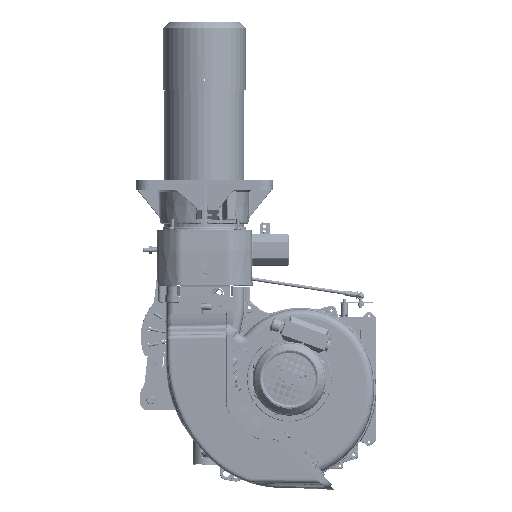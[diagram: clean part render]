
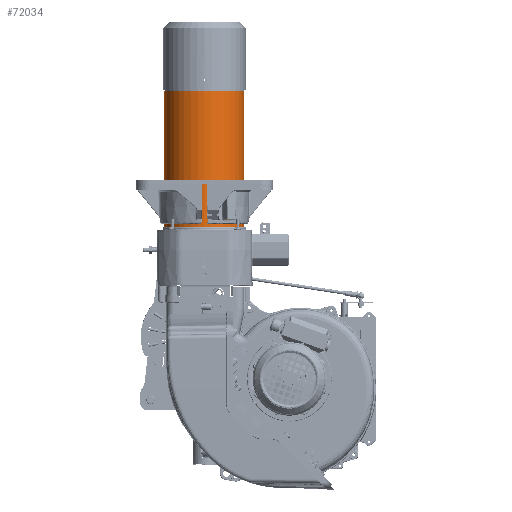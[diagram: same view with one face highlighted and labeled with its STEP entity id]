
A CAD part, left-side view. The second image highlights one B-rep face of the part: STEP entity #72034.
In plain terms, the highlighted cylindrical face has radius 76 mm (diameter 152 mm), a full revolution.
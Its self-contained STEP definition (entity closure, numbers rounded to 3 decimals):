
#8681 = AXIS2_PLACEMENT_3D ( 'NONE', #259349, #90131, #287883 ) ;
#25058 = DIRECTION ( 'NONE',  ( 0., 0., 1. ) ) ;
#49401 = AXIS2_PLACEMENT_3D ( 'NONE', #137461, #25058, #364863 ) ;
#50566 = EDGE_LOOP ( 'NONE', ( #338320, #53400 ) ) ;
#53400 = ORIENTED_EDGE ( 'NONE', *, *, #108468, .T. ) ;
#57064 = AXIS2_PLACEMENT_3D ( 'NONE', #106734, #304438, #135201 ) ;
#72034 = ADVANCED_FACE ( 'NONE', ( #77791, #360841 ), #108632, .T. ) ;
#75580 = ORIENTED_EDGE ( 'NONE', *, *, #195709, .F. ) ;
#76894 = EDGE_LOOP ( 'NONE', ( #75580 ) ) ;
#77791 = FACE_OUTER_BOUND ( 'NONE', #76894, .T. ) ;
#90131 = DIRECTION ( 'NONE',  ( 0., 0., 1. ) ) ;
#92943 = VERTEX_POINT ( 'NONE', #255632 ) ;
#97181 = CIRCLE ( 'NONE', #8681, 76. ) ;
#97697 = CARTESIAN_POINT ( 'NONE',  ( 0.106, 161.439, 289. ) ) ;
#106734 = CARTESIAN_POINT ( 'NONE',  ( 0.106, 161.439, 289. ) ) ;
#108468 = EDGE_CURVE ( 'NONE', #92943, #308452, #336898, .T. ) ;
#108632 = CYLINDRICAL_SURFACE ( 'NONE', #49401, 76. ) ;
#126097 = DIRECTION ( 'NONE',  ( 1., 0., 0. ) ) ;
#135201 = DIRECTION ( 'NONE',  ( 1., 0., 0. ) ) ;
#137461 = CARTESIAN_POINT ( 'NONE',  ( 0.106, 161.439, 286. ) ) ;
#195709 = EDGE_CURVE ( 'NONE', #307719, #307719, #97181, .T. ) ;
#235062 = CIRCLE ( 'NONE', #239260, 76. ) ;
#239260 = AXIS2_PLACEMENT_3D ( 'NONE', #97697, #295415, #126097 ) ;
#255632 = CARTESIAN_POINT ( 'NONE',  ( 76.106, 161.439, 289. ) ) ;
#259349 = CARTESIAN_POINT ( 'NONE',  ( 0.106, 161.439, 546. ) ) ;
#287883 = DIRECTION ( 'NONE',  ( 1., 0., 0. ) ) ;
#295415 = DIRECTION ( 'NONE',  ( 0., 0., 1. ) ) ;
#304438 = DIRECTION ( 'NONE',  ( 0., 0., 1. ) ) ;
#307719 = VERTEX_POINT ( 'NONE', #327703 ) ;
#308452 = VERTEX_POINT ( 'NONE', #343350 ) ;
#327703 = CARTESIAN_POINT ( 'NONE',  ( 76.106, 161.439, 546. ) ) ;
#336898 = CIRCLE ( 'NONE', #57064, 76. ) ;
#338320 = ORIENTED_EDGE ( 'NONE', *, *, #354031, .T. ) ;
#343350 = CARTESIAN_POINT ( 'NONE',  ( 0.106, 237.439, 289. ) ) ;
#354031 = EDGE_CURVE ( 'NONE', #308452, #92943, #235062, .T. ) ;
#360841 = FACE_OUTER_BOUND ( 'NONE', #50566, .T. ) ;
#364863 = DIRECTION ( 'NONE',  ( 1., 0., 0. ) ) ;
